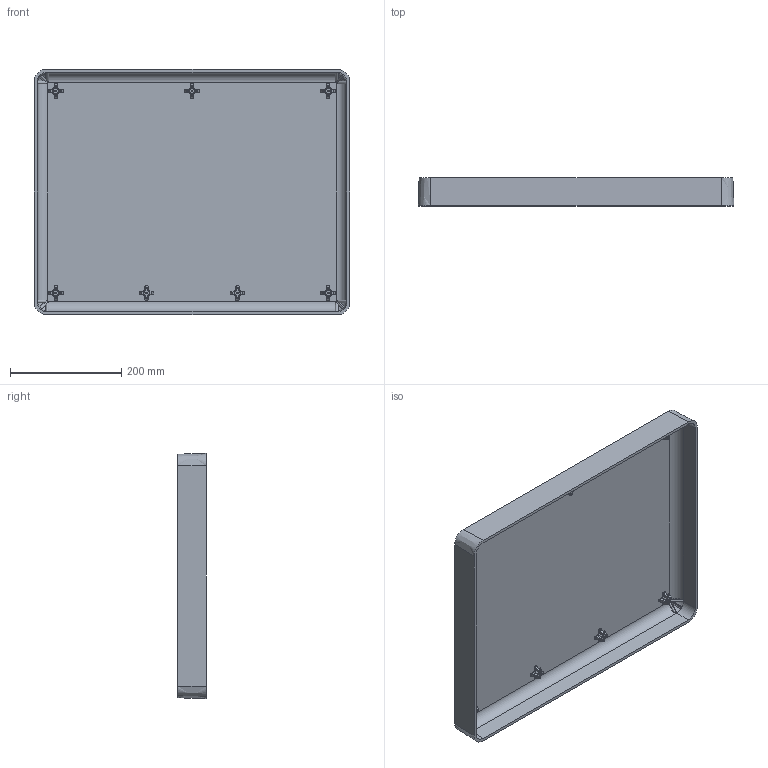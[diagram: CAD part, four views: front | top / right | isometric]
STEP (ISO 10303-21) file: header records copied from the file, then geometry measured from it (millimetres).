
FILE_DESCRIPTION (( 'STEP AP214' ), '1' );
FILE_NAME ('1602-CASE-TOP.STEP', '2005-10-05T21:07:58', ( ' ' ), ( ' ' ), 'SwSTEP 2.0', 'SolidWorks 2005143', '' );
FILE_SCHEMA (( 'AUTOMOTIVE_DESIGN' ));
Products named in the file (1): 1602-CASE-TOP
Bounding box: 566.67 x 50.8 x 440.56 mm (x, y, z)
Volume: 1918774.7 mm3; surface area: 672750.7 mm2
Topology: 1 solids, 1 shells, 806 faces, 1870 edges, 1021 vertices
Faces by surface type: bspline 284, cylinder 146, torus 126, plane 105, cone 77, sphere 68
Entity records: 86078 total; most frequent: CARTESIAN_POINT 69770, ORIENTED_EDGE 3620, DIRECTION 3075, EDGE_CURVE 1810, AXIS2_PLACEMENT_3D 1374, VERTEX_POINT 1021, CIRCLE 851, EDGE_LOOP 821
